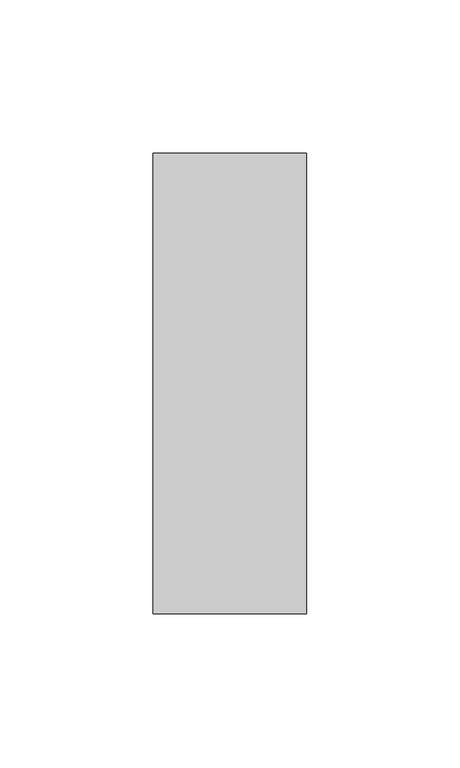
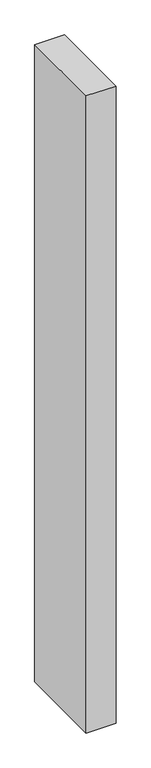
"""IFC4 building model written with IfcOpenShell, lengths in millimetres: member geometry, Прямоугольный импост : 50 x 150 мм."""

from ifc_helpers import new_model, si_unit, frame, origin, place, context, project, spatial, polyline, outline, extrude, source, transform, mapped, element, save


def member_e64c7fc8(model_context):
    return source(origin(), model_context, "Body", "SweptSolid", [
        extrude(outline(polyline([(25.0, 75.0), (25.0, -75.0), (-25.0, -75.0), (-25.0, 75.0), (25.0, 75.0)])), frame((0.0, 0.0, -1133.5639962), z_axis=(0.0, 0.0, 1.0), x_axis=(1.0, 0.0, 0.0)), (0.0, 0.0, 1.0), 1133.5639962),
    ])


if __name__ == "__main__":
    model = new_model("IFC4")
    model_context = context("Model", 3, world=origin())
    ifc_project = project(units=[si_unit("LENGTHUNIT", "METRE", prefix="MILLI")], contexts=[model_context])
    site = spatial("IfcSite", under=ifc_project)
    building = spatial("IfcBuilding", under=site)
    placement = place(None, origin())
    member_shape = member_e64c7fc8(model_context)
    element("IfcMember", 1, ObjectType="Прямоугольный импост : 50 x 150 мм", at=placement, inside=building, context=model_context, shape_type="MappedRepresentation", body=[
        mapped(member_shape, transform((0.0, 0.0, 0.0), x_axis=(1.0, 0.0, 0.0), y_axis=(0.0, 1.0, 0.0), z_axis=(0.0, 0.0, 1.0))),
    ])
    save(model, "model.ifc")
